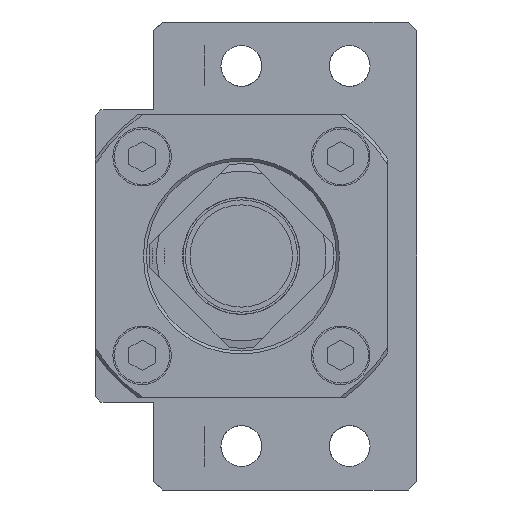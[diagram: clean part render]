
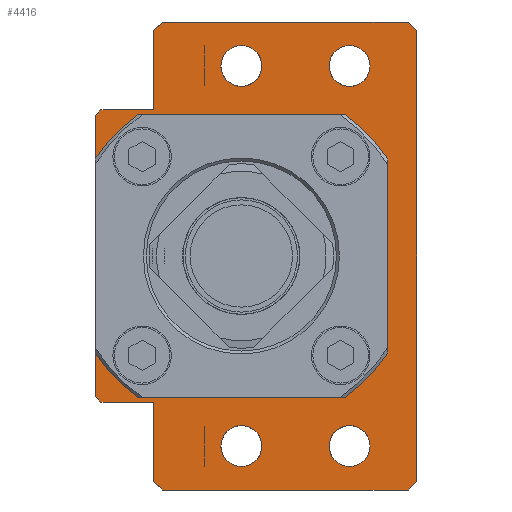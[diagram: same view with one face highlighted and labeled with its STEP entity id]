
A CAD part, left-side view. The second image highlights one B-rep face of the part: STEP entity #4416.
In plain terms, the highlighted planar face has unit normal (-1, 0, 0) as drawn and (0, 0, 1) by its records, which use the part's own axes.
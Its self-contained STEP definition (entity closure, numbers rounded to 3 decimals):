
#232=FACE_BOUND('',#816,.T.);
#233=FACE_BOUND('',#817,.T.);
#234=FACE_BOUND('',#818,.T.);
#235=FACE_BOUND('',#819,.T.);
#236=FACE_BOUND('',#820,.T.);
#367=PLANE('',#4850);
#535=FACE_OUTER_BOUND('',#815,.T.);
#815=EDGE_LOOP('',(#3422,#3423,#3424,#3425,#3426,#3427,#3428,#3429,#3430,
#3431,#3432,#3433,#3434,#3435));
#816=EDGE_LOOP('',(#3436));
#817=EDGE_LOOP('',(#3437));
#818=EDGE_LOOP('',(#3438));
#819=EDGE_LOOP('',(#3439));
#820=EDGE_LOOP('',(#3440,#3441,#3442,#3443,#3444,#3445,#3446,#3447));
#1071=LINE('',#7301,#1400);
#1135=LINE('',#7689,#1464);
#1138=LINE('',#7694,#1467);
#1140=LINE('',#7698,#1469);
#1142=LINE('',#7702,#1471);
#1147=LINE('',#7709,#1476);
#1149=LINE('',#7713,#1478);
#1153=LINE('',#7720,#1482);
#1156=LINE('',#7725,#1485);
#1157=LINE('',#7727,#1486);
#1158=LINE('',#7730,#1487);
#1160=LINE('',#7734,#1489);
#1162=LINE('',#7737,#1491);
#1163=LINE('',#7738,#1492);
#1164=LINE('',#7743,#1493);
#1165=LINE('',#7747,#1494);
#1166=LINE('',#7751,#1495);
#1167=LINE('',#7754,#1496);
#1400=VECTOR('',#5288,1000.);
#1464=VECTOR('',#5544,1000.);
#1467=VECTOR('',#5549,1000.);
#1469=VECTOR('',#5553,1000.);
#1471=VECTOR('',#5557,1000.);
#1476=VECTOR('',#5564,1000.);
#1478=VECTOR('',#5568,1000.);
#1482=VECTOR('',#5574,1000.);
#1485=VECTOR('',#5579,1000.);
#1486=VECTOR('',#5582,1000.);
#1487=VECTOR('',#5585,1000.);
#1489=VECTOR('',#5589,1000.);
#1491=VECTOR('',#5593,1000.);
#1492=VECTOR('',#5594,1000.);
#1493=VECTOR('',#5597,1000.);
#1494=VECTOR('',#5600,1000.);
#1495=VECTOR('',#5603,1000.);
#1496=VECTOR('',#5606,1000.);
#1723=CIRCLE('',#4725,7.);
#1725=CIRCLE('',#4730,7.);
#1727=CIRCLE('',#4735,7.);
#1729=CIRCLE('',#4740,7.);
#1788=CIRCLE('',#4851,59.);
#1789=CIRCLE('',#4852,59.);
#1790=CIRCLE('',#4853,59.);
#1791=CIRCLE('',#4854,59.);
#1923=VERTEX_POINT('',#6575);
#1937=VERTEX_POINT('',#6781);
#1951=VERTEX_POINT('',#6987);
#1965=VERTEX_POINT('',#7193);
#1973=VERTEX_POINT('',#7299);
#1974=VERTEX_POINT('',#7300);
#2084=VERTEX_POINT('',#7687);
#2085=VERTEX_POINT('',#7688);
#2086=VERTEX_POINT('',#7693);
#2087=VERTEX_POINT('',#7697);
#2088=VERTEX_POINT('',#7701);
#2089=VERTEX_POINT('',#7707);
#2090=VERTEX_POINT('',#7711);
#2091=VERTEX_POINT('',#7717);
#2092=VERTEX_POINT('',#7719);
#2093=VERTEX_POINT('',#7723);
#2094=VERTEX_POINT('',#7729);
#2095=VERTEX_POINT('',#7733);
#2096=VERTEX_POINT('',#7739);
#2097=VERTEX_POINT('',#7740);
#2098=VERTEX_POINT('',#7742);
#2099=VERTEX_POINT('',#7744);
#2100=VERTEX_POINT('',#7746);
#2101=VERTEX_POINT('',#7748);
#2102=VERTEX_POINT('',#7750);
#2103=VERTEX_POINT('',#7752);
#2363=EDGE_CURVE('',#1923,#1923,#1723,.T.);
#2380=EDGE_CURVE('',#1937,#1937,#1725,.T.);
#2397=EDGE_CURVE('',#1951,#1951,#1727,.T.);
#2414=EDGE_CURVE('',#1965,#1965,#1729,.T.);
#2424=EDGE_CURVE('',#1973,#1974,#1071,.T.);
#2575=EDGE_CURVE('',#2084,#2085,#1135,.T.);
#2578=EDGE_CURVE('',#2085,#2086,#1138,.T.);
#2580=EDGE_CURVE('',#2086,#2087,#1140,.T.);
#2582=EDGE_CURVE('',#2087,#2088,#1142,.T.);
#2587=EDGE_CURVE('',#2088,#2089,#1147,.T.);
#2589=EDGE_CURVE('',#2089,#2090,#1149,.T.);
#2593=EDGE_CURVE('',#2092,#2091,#1153,.T.);
#2596=EDGE_CURVE('',#2091,#2093,#1156,.T.);
#2597=EDGE_CURVE('',#2093,#2084,#1157,.T.);
#2598=EDGE_CURVE('',#2090,#2094,#1158,.T.);
#2600=EDGE_CURVE('',#2095,#2092,#1160,.T.);
#2602=EDGE_CURVE('',#1973,#2095,#1162,.T.);
#2603=EDGE_CURVE('',#2094,#1974,#1163,.T.);
#2604=EDGE_CURVE('',#2096,#2097,#1788,.T.);
#2605=EDGE_CURVE('',#2098,#2097,#1164,.T.);
#2606=EDGE_CURVE('',#2098,#2099,#1789,.T.);
#2607=EDGE_CURVE('',#2100,#2099,#1165,.T.);
#2608=EDGE_CURVE('',#2100,#2101,#1790,.T.);
#2609=EDGE_CURVE('',#2102,#2101,#1166,.T.);
#2610=EDGE_CURVE('',#2102,#2103,#1791,.T.);
#2611=EDGE_CURVE('',#2096,#2103,#1167,.T.);
#3422=ORIENTED_EDGE('',*,*,#2602,.T.);
#3423=ORIENTED_EDGE('',*,*,#2600,.T.);
#3424=ORIENTED_EDGE('',*,*,#2593,.T.);
#3425=ORIENTED_EDGE('',*,*,#2596,.T.);
#3426=ORIENTED_EDGE('',*,*,#2597,.T.);
#3427=ORIENTED_EDGE('',*,*,#2575,.T.);
#3428=ORIENTED_EDGE('',*,*,#2578,.T.);
#3429=ORIENTED_EDGE('',*,*,#2580,.T.);
#3430=ORIENTED_EDGE('',*,*,#2582,.T.);
#3431=ORIENTED_EDGE('',*,*,#2587,.T.);
#3432=ORIENTED_EDGE('',*,*,#2589,.T.);
#3433=ORIENTED_EDGE('',*,*,#2598,.T.);
#3434=ORIENTED_EDGE('',*,*,#2603,.T.);
#3435=ORIENTED_EDGE('',*,*,#2424,.F.);
#3436=ORIENTED_EDGE('',*,*,#2363,.T.);
#3437=ORIENTED_EDGE('',*,*,#2380,.T.);
#3438=ORIENTED_EDGE('',*,*,#2397,.T.);
#3439=ORIENTED_EDGE('',*,*,#2414,.T.);
#3440=ORIENTED_EDGE('',*,*,#2604,.T.);
#3441=ORIENTED_EDGE('',*,*,#2605,.F.);
#3442=ORIENTED_EDGE('',*,*,#2606,.T.);
#3443=ORIENTED_EDGE('',*,*,#2607,.F.);
#3444=ORIENTED_EDGE('',*,*,#2608,.T.);
#3445=ORIENTED_EDGE('',*,*,#2609,.F.);
#3446=ORIENTED_EDGE('',*,*,#2610,.T.);
#3447=ORIENTED_EDGE('',*,*,#2611,.F.);
#4416=ADVANCED_FACE('',(#535,#232,#233,#234,#235,#236),#367,.T.);
#4725=AXIS2_PLACEMENT_3D('',#6576,#5239,#5240);
#4730=AXIS2_PLACEMENT_3D('',#6782,#5252,#5253);
#4735=AXIS2_PLACEMENT_3D('',#6988,#5265,#5266);
#4740=AXIS2_PLACEMENT_3D('',#7194,#5278,#5279);
#4850=AXIS2_PLACEMENT_3D('',#7736,#5591,#5592);
#4851=AXIS2_PLACEMENT_3D('',#7741,#5595,#5596);
#4852=AXIS2_PLACEMENT_3D('',#7745,#5598,#5599);
#4853=AXIS2_PLACEMENT_3D('',#7749,#5601,#5602);
#4854=AXIS2_PLACEMENT_3D('',#7753,#5604,#5605);
#5239=DIRECTION('center_axis',(0.,0.,-1.));
#5240=DIRECTION('ref_axis',(1.,0.,0.));
#5252=DIRECTION('center_axis',(0.,0.,-1.));
#5253=DIRECTION('ref_axis',(1.,0.,0.));
#5265=DIRECTION('center_axis',(0.,0.,-1.));
#5266=DIRECTION('ref_axis',(1.,0.,0.));
#5278=DIRECTION('center_axis',(0.,0.,-1.));
#5279=DIRECTION('ref_axis',(1.,0.,0.));
#5288=DIRECTION('',(1.,0.,0.));
#5544=DIRECTION('',(0.707,-0.707,0.));
#5549=DIRECTION('',(1.,0.,0.));
#5553=DIRECTION('',(0.707,0.707,0.));
#5557=DIRECTION('',(0.,1.,0.));
#5564=DIRECTION('',(-0.707,0.707,0.));
#5568=DIRECTION('',(-1.,0.,0.));
#5574=DIRECTION('',(-1.,0.,0.));
#5579=DIRECTION('',(-0.707,-0.707,0.));
#5582=DIRECTION('',(0.,-1.,0.));
#5585=DIRECTION('',(0.,1.,0.));
#5589=DIRECTION('',(0.,-1.,0.));
#5591=DIRECTION('center_axis',(0.,0.,1.));
#5592=DIRECTION('ref_axis',(1.,0.,0.));
#5593=DIRECTION('',(-0.707,-0.707,0.));
#5594=DIRECTION('',(-0.707,0.707,0.));
#5595=DIRECTION('center_axis',(0.,0.,-1.));
#5596=DIRECTION('ref_axis',(-1.,0.,0.));
#5597=DIRECTION('',(-1.,0.,0.));
#5598=DIRECTION('center_axis',(0.,0.,-1.));
#5599=DIRECTION('ref_axis',(-1.,0.,0.));
#5600=DIRECTION('',(0.,1.,0.));
#5601=DIRECTION('center_axis',(0.,0.,-1.));
#5602=DIRECTION('ref_axis',(-1.,0.,0.));
#5603=DIRECTION('',(1.,0.,0.));
#5604=DIRECTION('center_axis',(0.,0.,-1.));
#5605=DIRECTION('ref_axis',(-1.,0.,0.));
#5606=DIRECTION('',(0.,-1.,0.));
#6575=CARTESIAN_POINT('',(58.,0.,0.));
#6576=CARTESIAN_POINT('Origin',(65.,0.,0.));
#6781=CARTESIAN_POINT('',(-72.,0.,0.));
#6782=CARTESIAN_POINT('Origin',(-65.,0.,0.));
#6987=CARTESIAN_POINT('',(58.,-37.,0.));
#6988=CARTESIAN_POINT('Origin',(65.,-37.,0.));
#7193=CARTESIAN_POINT('',(-72.,-37.,0.));
#7194=CARTESIAN_POINT('Origin',(-65.,-37.,0.));
#7299=CARTESIAN_POINT('',(-48.,50.,0.));
#7300=CARTESIAN_POINT('',(48.,50.,0.));
#7301=CARTESIAN_POINT('',(48.,50.,0.));
#7687=CARTESIAN_POINT('',(-80.,-57.,0.));
#7688=CARTESIAN_POINT('',(-77.,-60.,0.));
#7689=CARTESIAN_POINT('',(-80.,-57.,0.));
#7693=CARTESIAN_POINT('',(77.,-60.,0.));
#7694=CARTESIAN_POINT('',(-77.,-60.,0.));
#7697=CARTESIAN_POINT('',(80.,-57.,0.));
#7698=CARTESIAN_POINT('',(77.,-60.,0.));
#7701=CARTESIAN_POINT('',(80.,27.,0.));
#7702=CARTESIAN_POINT('',(80.,-57.,0.));
#7707=CARTESIAN_POINT('',(77.,30.,0.));
#7709=CARTESIAN_POINT('',(80.,27.,0.));
#7711=CARTESIAN_POINT('',(50.,30.,0.));
#7713=CARTESIAN_POINT('',(77.,30.,0.));
#7717=CARTESIAN_POINT('',(-77.,30.,0.));
#7719=CARTESIAN_POINT('',(-50.,30.,0.));
#7720=CARTESIAN_POINT('',(-50.,30.,0.));
#7723=CARTESIAN_POINT('',(-80.,27.,0.));
#7725=CARTESIAN_POINT('',(-77.,30.,0.));
#7727=CARTESIAN_POINT('',(-80.,27.,0.));
#7729=CARTESIAN_POINT('',(50.,48.,0.));
#7730=CARTESIAN_POINT('',(50.,30.,0.));
#7733=CARTESIAN_POINT('',(-50.,48.,0.));
#7734=CARTESIAN_POINT('',(-50.,48.,0.));
#7736=CARTESIAN_POINT('Origin',(0.,0.,0.));
#7737=CARTESIAN_POINT('',(-48.,50.,0.));
#7738=CARTESIAN_POINT('',(50.,48.,0.));
#7739=CARTESIAN_POINT('',(-48.48,33.626,0.));
#7740=CARTESIAN_POINT('',(-31.353,49.98,0.));
#7741=CARTESIAN_POINT('Origin',(0.,0.,0.));
#7742=CARTESIAN_POINT('',(31.353,49.98,0.));
#7743=CARTESIAN_POINT('',(48.48,49.98,0.));
#7744=CARTESIAN_POINT('',(48.48,33.626,0.));
#7745=CARTESIAN_POINT('Origin',(0.,0.,0.));
#7746=CARTESIAN_POINT('',(48.48,-33.626,0.));
#7747=CARTESIAN_POINT('',(48.48,-49.98,0.));
#7748=CARTESIAN_POINT('',(31.353,-49.98,0.));
#7749=CARTESIAN_POINT('Origin',(0.,0.,0.));
#7750=CARTESIAN_POINT('',(-31.353,-49.98,0.));
#7751=CARTESIAN_POINT('',(-48.48,-49.98,0.));
#7752=CARTESIAN_POINT('',(-48.48,-33.626,0.));
#7753=CARTESIAN_POINT('Origin',(0.,0.,0.));
#7754=CARTESIAN_POINT('',(-48.48,49.98,0.));
